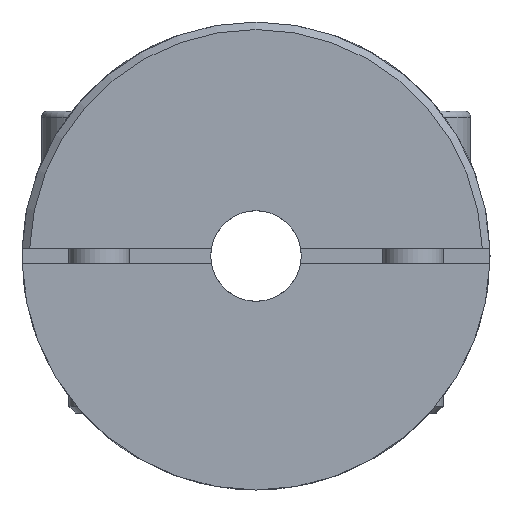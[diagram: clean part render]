
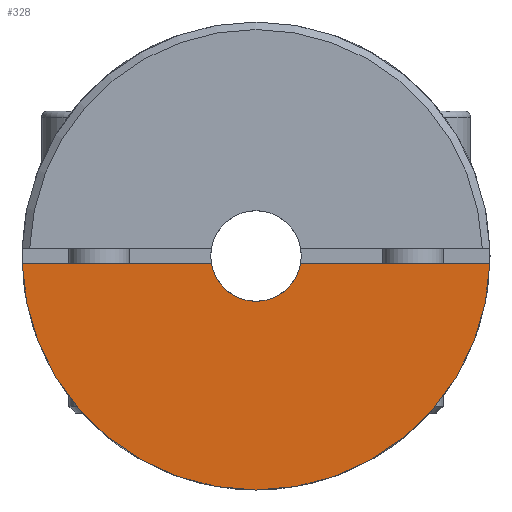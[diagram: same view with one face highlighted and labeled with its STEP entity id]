
A CAD part, left-side view. The second image highlights one B-rep face of the part: STEP entity #328.
In plain terms, the highlighted planar face has unit normal (-1, 0, 0) as drawn and (1, 0, 0) by its records, which use the part's own axes.
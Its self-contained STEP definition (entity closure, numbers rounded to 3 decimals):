
#328 = ADVANCED_FACE( '', ( #678 ), #679, .T. );
#678 = FACE_OUTER_BOUND( '', #1122, .T. );
#679 = PLANE( '', #1123 );
#1122 = EDGE_LOOP( '', ( #1655, #1656, #1657, #1658 ) );
#1123 = AXIS2_PLACEMENT_3D( '', #1659, #1660, #1661 );
#1655 = ORIENTED_EDGE( '', *, *, #2243, .F. );
#1656 = ORIENTED_EDGE( '', *, *, #2280, .T. );
#1657 = ORIENTED_EDGE( '', *, *, #2216, .T. );
#1658 = ORIENTED_EDGE( '', *, *, #2220, .T. );
#1659 = CARTESIAN_POINT( '', ( 7.3, 0., 7.75 ) );
#1660 = DIRECTION( '', ( 1., 0., 0. ) );
#1661 = DIRECTION( '', ( 0., 0., -1. ) );
#2216 = EDGE_CURVE( '', #2512, #2517, #2519, .T. );
#2220 = EDGE_CURVE( '', #2517, #2523, #2525, .T. );
#2243 = EDGE_CURVE( '', #2561, #2523, #2563, .T. );
#2280 = EDGE_CURVE( '', #2561, #2512, #2625, .T. );
#2512 = VERTEX_POINT( '', #2894 );
#2517 = VERTEX_POINT( '', #2900 );
#2519 = CIRCLE( '', #2903, 1.5 );
#2523 = VERTEX_POINT( '', #2908 );
#2525 = LINE( '', #2911, #2912 );
#2561 = VERTEX_POINT( '', #2952 );
#2563 = CIRCLE( '', #2955, 7.75 );
#2625 = LINE( '', #3213, #3214 );
#2894 = CARTESIAN_POINT( '', ( 7.3, 1.479, -0.25 ) );
#2900 = CARTESIAN_POINT( '', ( 7.3, -1.479, -0.25 ) );
#2903 = AXIS2_PLACEMENT_3D( '', #3512, #3513, #3514 );
#2908 = CARTESIAN_POINT( '', ( 7.3, -7.746, -0.25 ) );
#2911 = CARTESIAN_POINT( '', ( 7.3, 0., -0.25 ) );
#2912 = VECTOR( '', #3517, 1000. );
#2952 = CARTESIAN_POINT( '', ( 7.3, 7.746, -0.25 ) );
#2955 = AXIS2_PLACEMENT_3D( '', #3556, #3557, #3558 );
#3213 = CARTESIAN_POINT( '', ( 7.3, 0., -0.25 ) );
#3214 = VECTOR( '', #3602, 1000. );
#3512 = CARTESIAN_POINT( '', ( 7.3, 0., 0. ) );
#3513 = DIRECTION( '', ( -1., 0., 0. ) );
#3514 = DIRECTION( '', ( 0., 0., 1. ) );
#3517 = DIRECTION( '', ( 0., -1., 0. ) );
#3556 = CARTESIAN_POINT( '', ( 7.3, 0., 0. ) );
#3557 = DIRECTION( '', ( -1., 0., 0. ) );
#3558 = DIRECTION( '', ( 0., 0., 1. ) );
#3602 = DIRECTION( '', ( 0., -1., 0. ) );
